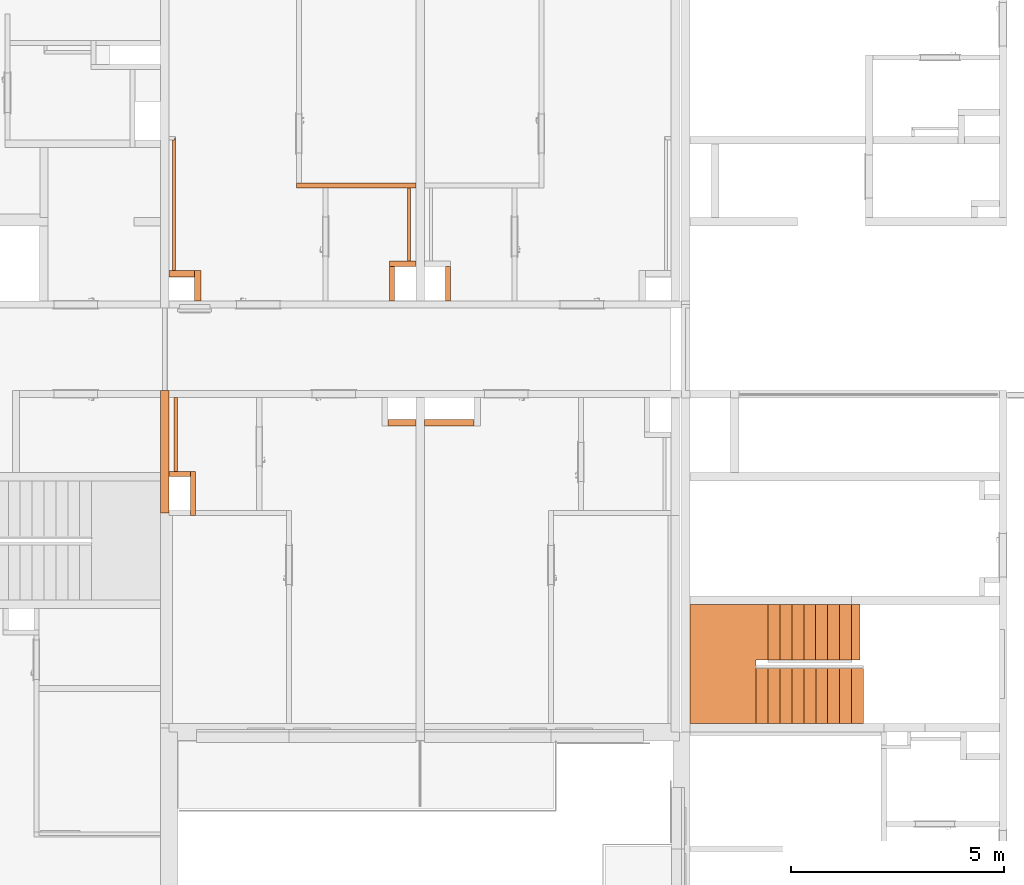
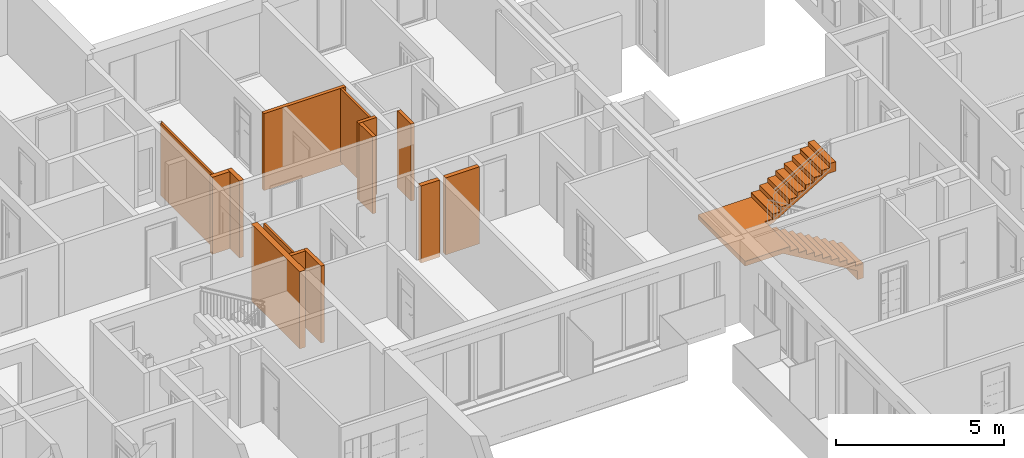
# One storey, part 60 of 66: 15 proxies.
"""IFC2X3 building model written with IfcOpenShell, lengths in millimetres."""

from ifc_helpers import new_model, entity, si_unit, converted_unit, derived_unit, money_unit, direction, frame, origin_with_axes, place, context, subcontext, project, spatial, faceted_brep, material, material_list, type_object, element, save


model = new_model("IFC2X3")

# Units and contexts
model_context = context("Model", 3, precision=0.01, world=origin_with_axes(), true_north=direction((0.34421633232, 0.938890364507)))
body_context = subcontext(model_context, "Body", "Model", "MODEL_VIEW")
ifc_project = project(units=[si_unit("LENGTHUNIT", "METRE", prefix="MILLI"), si_unit("AREAUNIT", "SQUARE_METRE"), si_unit("VOLUMEUNIT", "CUBIC_METRE"), converted_unit("PLANEANGLEUNIT", "DEGREE", entity("IfcPlaneAngleMeasure", 0.0174532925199), si_unit("PLANEANGLEUNIT", "RADIAN"), dimensions=[0, 0, 0, 0, 0, 0, 0]), si_unit("SOLIDANGLEUNIT", "STERADIAN"), money_unit("USD"), converted_unit("TIMEUNIT", "Year", entity("IfcTimeMeasure", 31556926.0), si_unit("TIMEUNIT", "SECOND"), dimensions=[0, 0, 1, 0, 0, 0, 0]), si_unit("MASSUNIT", "GRAM", prefix="KILO"), si_unit("THERMODYNAMICTEMPERATUREUNIT", "DEGREE_CELSIUS"), si_unit("LUMINOUSINTENSITYUNIT", "LUMEN"), si_unit("ENERGYUNIT", "JOULE", prefix="MEGA"), derived_unit("THERMALCONDUCTANCEUNIT", [(si_unit("POWERUNIT", "WATT"), 1), (si_unit("LENGTHUNIT", "METRE"), -1), (si_unit("THERMODYNAMICTEMPERATUREUNIT", "KELVIN"), -1)]), derived_unit("SPECIFICHEATCAPACITYUNIT", [(si_unit("ENERGYUNIT", "JOULE"), 1), (si_unit("MASSUNIT", "GRAM", prefix="KILO"), -1), (si_unit("THERMODYNAMICTEMPERATUREUNIT", "KELVIN"), -1)]), derived_unit("MASSDENSITYUNIT", [(si_unit("MASSUNIT", "GRAM", prefix="KILO"), 1), (si_unit("VOLUMEUNIT", "CUBIC_METRE"), -1)])], contexts=[model_context])

# Site, building, storey
site_placement = place(None, origin_with_axes())
site = spatial("IfcSite", under=ifc_project, at=site_placement, Name="USTRONIE MORSKIE", CompositionType="ELEMENT")
building_placement = place(site_placement, origin_with_axes())
building = spatial("IfcBuilding", under=site, at=building_placement, Name="Budynek", CompositionType="ELEMENT")
storey_placement = place(building_placement, frame((0.0, 0.0, 10000.0), z_axis=(0.0, 0.0, 1.0), x_axis=(1.0, 0.0, 0.0)))
storey = spatial("IfcBuildingStorey", under=building, at=storey_placement, Name="PIĘTRO 3", CompositionType="ELEMENT", Elevation=10000.0)

# Proxies
ifc_material_1 = material(Name="Bloczki silikatowe")
building_element_proxy_type_1 = type_object("IfcBuildingElementProxyType", Name="Bloczki silikatowe 120", PredefinedType="NOTDEFINED")
proxy_1_placement = place(storey_placement, frame((402917.920919, 737751.199937, -160.0), z_axis=(0.0, 0.0, 1.0), x_axis=(0.0, -1.0, 0.0)))
element("IfcBuildingElementProxy", 1, at=proxy_1_placement, inside=storey, type_object=building_element_proxy_type_1, material=ifc_material_1, Name="SW-04", context=body_context, shape_type="Brep", body=[
    faceted_brep([(820.00090117, 120.0, 0.0), (820.00090117, 0.0, 0.0), (0.0, 0.0, 0.0), (0.0, 120.0, 0.0), (820.00090117, 120.0, 2800.0), (820.00090117, 0.0, 2800.0), (0.0, 0.0, 2800.0), (0.0, 120.0, 2800.0)], [[[0, 1, 2, 3]], [[1, 0, 4, 5]], [[1, 5, 6, 2]], [[7, 3, 2, 6]], [[4, 0, 3, 7]], [[5, 4, 7, 6]]]),
])
proxy_2_placement = place(storey_placement, frame((399467.913786, 739651.199937, -160.0), z_axis=(0.0, 0.0, 1.0), x_axis=(1.0, 0.0, 0.0)))
element("IfcBuildingElementProxy", 2, at=proxy_2_placement, inside=storey, type_object=building_element_proxy_type_1, material=ifc_material_1, Name="SW-04", context=body_context, shape_type="Brep", body=[
    faceted_brep([(-60.0, -59.9999999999, 2800.0), (2750.00713284, -59.9999999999, 2800.0), (2750.00713284, 59.9999999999, 2800.0), (-60.0, 59.9999999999, 2800.0), (-60.0, -59.9999999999, 0.0), (2750.00713284, -59.9999999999, 0.0), (2750.00713284, 59.9999999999, 0.0), (-60.0, 59.9999999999, 0.0)], [[[0, 1, 2, 3]], [[4, 5, 1, 0]], [[5, 6, 2, 1]], [[3, 2, 6, 7]], [[3, 7, 4, 0]], [[7, 6, 5, 4]]]),
])
proxy_3_placement = place(storey_placement, frame((396317.920919, 732811.215201, -160.0), z_axis=(0.0, 0.0, 1.0), x_axis=(0.999999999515, -3.11484020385e-05, 0.0)))
element("IfcBuildingElementProxy", 3, at=proxy_3_placement, inside=storey, type_object=building_element_proxy_type_1, material=ifc_material_1, Name="SW-04", context=body_context, shape_type="Brep", body=[
    faceted_brep([(599.979556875, -1.13686837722e-10, 2800.0), (599.972081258, 120.0, 2800.0), (99.9962622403, 120.0, 2800.0), (100.000000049, -1.13686837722e-10, 2800.0), (599.979556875, -1.13686837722e-10, 0.0), (599.972081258, 120.0, 0.0), (99.9962622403, 120.0, 0.0), (100.000000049, -1.13686837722e-10, 0.0)], [[[0, 1, 2, 3]], [[1, 0, 4, 5]], [[1, 5, 6, 2]], [[7, 3, 2, 6]], [[4, 0, 3, 7]], [[5, 4, 7, 6]]]),
])
proxy_4_placement = place(storey_placement, frame((402317.920919, 737751.199937, -160.0), z_axis=(0.0, 0.0, 1.0), x_axis=(-1.0, 0.0, 0.0)))
element("IfcBuildingElementProxy", 4, at=proxy_4_placement, inside=storey, type_object=building_element_proxy_type_1, material=ifc_material_1, Name="SW-04", context=body_context, shape_type="Brep", body=[
    faceted_brep([(720.0, 0.0, 2800.0), (99.9999999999, 0.0, 2800.0), (99.9999999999, -120.0, 2800.0), (720.0, -120.0, 2800.0), (720.0, 0.0, 0.0), (99.9999999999, 0.0, 0.0), (99.9999999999, -120.0, 0.0), (720.0, -120.0, 0.0)], [[[0, 1, 2, 3]], [[4, 5, 1, 0]], [[5, 6, 2, 1]], [[3, 2, 6, 7]], [[7, 4, 0, 3]], [[7, 6, 5, 4]]]),
])
proxy_5_placement = place(storey_placement, frame((401717.920919, 737751.199937, -160.0), z_axis=(0.0, 0.0, 1.0), x_axis=(0.0, -1.0, 0.0)))
element("IfcBuildingElementProxy", 5, at=proxy_5_placement, inside=storey, type_object=building_element_proxy_type_1, material=ifc_material_1, Name="SW-04", context=body_context, shape_type="Brep", body=[
    faceted_brep([(820.00090117, -120.0, 2800.0), (820.00090117, 0.0, 2800.0), (0.0, 0.0, 2800.0), (0.0, -120.0, 2800.0), (820.00090117, -120.0, 0.0), (820.00090117, 0.0, 0.0), (0.0, 0.0, 0.0), (0.0, -120.0, 0.0)], [[[0, 1, 2, 3]], [[1, 0, 4, 5]], [[1, 5, 6, 2]], [[7, 3, 2, 6]], [[4, 0, 3, 7]], [[5, 4, 7, 6]]]),
])
proxy_6_placement = place(storey_placement, frame((396917.927263, 731951.199132, -160.0), z_axis=(0.0, 0.0, 1.0), x_axis=(-3.11484010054e-05, 0.999999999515, 0.0)))
element("IfcBuildingElementProxy", 6, at=proxy_6_placement, inside=storey, type_object=building_element_proxy_type_1, material=ifc_material_1, Name="SW-04", context=body_context, shape_type="Brep", body=[
    faceted_brep([(979.997380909, 0.0, 0.0), (979.989905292, -120.0, 0.0), (-60.0037378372, -120.0, 0.0), (-60.000000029, 0.0, 0.0), (979.997380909, 0.0, 2800.0), (979.989905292, -120.0, 2800.0), (-60.0037378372, -120.0, 2800.0), (-60.000000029, 0.0, 2800.0)], [[[0, 1, 2, 3]], [[1, 0, 4, 5]], [[1, 5, 6, 2]], [[7, 3, 2, 6]], [[4, 0, 3, 7]], [[5, 4, 7, 6]]]),
])
ifc_material_2 = material(Name="Beton konstrukcyjny B25")
ifc_material_3 = material(Name="Płytki podłogowe")
ifc_material_list_1 = material_list([ifc_material_2, ifc_material_2, ifc_material_2, ifc_material_3, ifc_material_3, ifc_material_3, ifc_material_3, ifc_material_3, ifc_material_3, ifc_material_3, ifc_material_3, ifc_material_3, ifc_material_3, ifc_material_3, ifc_material_3, ifc_material_3, ifc_material_3, ifc_material_3, ifc_material_3, ifc_material_3])
building_element_proxy_type_2 = type_object("IfcBuildingElementProxyType", Name="Typ schodów", PredefinedType="NOTDEFINED")
proxy_7_placement = place(storey_placement, frame((412739.618312, 727001.198914, 0.0), z_axis=(0.0, 0.0, 1.0), x_axis=(-1.0, 0.0, 0.0)))
element("IfcBuildingElementProxy", 7, at=proxy_7_placement, inside=storey, type_object=building_element_proxy_type_2, material=ifc_material_list_1, Name="SCH2", context=body_context, shape_type="Brep", body=[
    faceted_brep([(2520.00002021, -1299.99999404, 1485.0), (2520.00002021, 0.0, 1485.0), (2240.0, 0.0, 1485.0), (2240.0, -1300.0, 1485.0), (2520.00002021, -1299.99999404, 1491.66666667), (2520.00002021, 0.0, 1491.66666667), (2520.00002021, 0.0, 1345.35030449), (2426.66666667, 0.0, 1289.7947369), (2333.33333333, 0.0, 1234.23918135), (2240.0, 0.0, 1178.68362579), (2146.66666667, 0.0, 1123.12807024), (2053.33333333, 0.0, 1067.57251468), (1960.0, 0.0, 1012.01695913), (1866.66666667, 0.0, 956.46140357), (1773.33333333, 0.0, 900.905848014), (1680.0, 0.0, 845.350292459), (1586.66666667, 0.0, 789.794736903), (1493.33333333, 0.0, 734.239181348), (1400.0, 0.0, 678.683625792), (1306.66666667, 0.0, 623.128070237), (1213.33333333, 0.0, 567.572514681), (1120.0, 0.0, 512.016959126), (1026.66666667, 0.0, 456.46140357), (933.333333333, 0.0, 400.905848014), (840.0, 0.0, 345.350292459), (746.666666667, 0.0, 289.794736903), (653.333333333, 0.0, 234.239181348), (560.0, 0.0, 178.683625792), (466.666666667, 0.0, 123.128070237), (373.333333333, 0.0, 67.5725146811), (280.0, 0.0, 12.0169591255), (200.0, 0.0, -35.6020884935), (200.0, 0.0, -360.0), (0.0, 0.0, -360.0), (0.0, 0.0, -154.649707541), (0.0, 0.0, 151.666666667), (280.0, 0.0, 151.666666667), (280.0, 0.0, 318.333333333), (560.0, 0.0, 318.333333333), (560.0, 0.0, 485.0), (840.0, 0.0, 485.0), (840.0, 0.0, 651.666666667), (1120.0, 0.0, 651.666666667), (1120.0, 0.0, 818.333333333), (1400.0, 0.0, 818.333333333), (1400.0, 0.0, 985.0), (1680.0, 0.0, 985.0), (1680.0, 0.0, 1151.66666667), (1960.0, 0.0, 1151.66666667), (1960.0, 0.0, 1318.33333333), (2240.0, 0.0, 1318.33333333), (2765.81150867, 0.0, 1491.66666667), (2240.0, -1300.0, 1318.33333333), (1960.0, -1300.0, 1318.33333333), (1960.0, -1300.0, 1151.66666667), (1680.0, -1300.0, 1151.66666667), (1680.0, -1300.0, 985.0), (1400.0, -1300.0, 985.0), (1400.0, -1300.0, 818.333333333), (1120.0, -1300.0, 818.333333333), (1120.0, -1300.0, 651.666666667), (840.0, -1300.0, 651.666666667), (840.0, -1300.0, 485.0), (560.0, -1300.0, 485.0), (560.0, -1300.0, 318.333333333), (280.0, -1300.0, 318.333333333), (280.0, -1300.0, 151.666666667), (0.0, -1300.0, 151.666666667), (0.0, -1300.0, -154.649707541), (0.0, -1300.0, -360.0), (200.0, -1300.0, -360.0), (200.0, -1300.0, -35.6020884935), (280.0, -1300.0, 12.0169591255), (373.333333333, -1300.0, 67.5725146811), (466.666666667, -1300.0, 123.128070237), (560.0, -1300.0, 178.683625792), (653.333333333, -1300.0, 234.239181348), (746.666666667, -1300.0, 289.794736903), (840.0, -1300.0, 345.350292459), (933.333333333, -1300.0, 400.905848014), (1026.66666667, -1300.0, 456.46140357), (1120.0, -1300.0, 512.016959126), (1213.33333333, -1300.0, 567.572514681), (1306.66666667, -1300.0, 623.128070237), (1400.0, -1300.0, 678.683625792), (1493.33333333, -1300.0, 734.239181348), (1586.66666667, -1300.0, 789.794736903), (1680.0, -1300.0, 845.350292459), (1773.33333333, -1300.0, 900.905848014), (1866.66666667, -1300.0, 956.46140357), (1960.0, -1300.0, 1012.01695913), (2053.33333333, -1300.0, 1067.57251468), (2146.66666667, -1300.0, 1123.12807024), (2240.0, -1300.0, 1178.68362579), (2333.33333333, -1300.0, 1234.23918135), (2426.66666667, -1300.0, 1289.7947369), (2520.00002021, -1299.99999404, 1345.35030449), (2765.81150867, -1299.99999404, 1491.66666667)], [[[0, 1, 2, 3]], [[1, 0, 4, 5]], [[6, 7, 8, 9, 10, 11, 12, 13, 14, 15, 16, 17, 18, 19, 20, 21, 22, 23, 24, 25, 26, 27, 28, 29, 30, 31, 32, 33, 34, 35, 36, 37, 38, 39, 40, 41, 42, 43, 44, 45, 46, 47, 48, 49, 50, 2, 1, 5, 51]], [[52, 3, 2, 50]], [[0, 3, 52, 53, 54, 55, 56, 57, 58, 59, 60, 61, 62, 63, 64, 65, 66, 67, 68, 69, 70, 71, 72, 73, 74, 75, 76, 77, 78, 79, 80, 81, 82, 83, 84, 85, 86, 87, 88, 89, 90, 91, 92, 93, 94, 95, 96, 97, 4]], [[51, 5, 4, 97]], [[96, 95, 7, 6, 51, 97]], [[95, 94, 8, 7]], [[94, 93, 9, 8]], [[93, 92, 10, 9]], [[92, 91, 11, 10]], [[91, 90, 12, 11]], [[90, 89, 13, 12]], [[89, 88, 14, 13]], [[88, 87, 15, 14]], [[87, 86, 16, 15]], [[86, 85, 17, 16]], [[85, 84, 18, 17]], [[84, 83, 19, 18]], [[83, 82, 20, 19]], [[82, 81, 21, 20]], [[81, 80, 22, 21]], [[80, 79, 23, 22]], [[79, 78, 24, 23]], [[78, 77, 25, 24]], [[77, 76, 26, 25]], [[76, 75, 27, 26]], [[75, 74, 28, 27]], [[74, 73, 29, 28]], [[73, 72, 30, 29]], [[72, 71, 31, 30]], [[32, 31, 71, 70]], [[32, 70, 69, 33]], [[69, 68, 34, 33]], [[35, 34, 68, 67]], [[36, 35, 67, 66]], [[66, 65, 37, 36]], [[38, 37, 65, 64]], [[64, 63, 39, 38]], [[40, 39, 63, 62]], [[62, 61, 41, 40]], [[42, 41, 61, 60]], [[60, 59, 43, 42]], [[44, 43, 59, 58]], [[58, 57, 45, 44]], [[46, 45, 57, 56]], [[56, 55, 47, 46]], [[48, 47, 55, 54]], [[54, 53, 49, 48]], [[50, 49, 53, 52]]]),
    faceted_brep([(2275.92762177, -1500.00000596, 1491.66666667), (2275.92762177, -1500.00000596, 1651.66666667), (2521.73913043, -1500.00000596, 1651.66666667), (2521.73913043, -1500.00000596, 1491.66666667), (2275.92762177, -2800.0, 1651.66666667), (2275.92762177, -2800.0, 1491.66666667), (4071.73911851, -2800.0, 1651.66666667), (4071.73911851, 0.0, 1651.66666667), (2520.00002021, 0.0, 1651.66666667), (2520.00002021, -1299.99999404, 1651.66666667), (2521.73913043, -1299.99999404, 1651.66666667), (2521.73913043, -1299.99999404, 1491.66666667), (2520.00002021, -1299.99999404, 1491.66666667), (2520.00002021, 0.0, 1491.66666667), (4071.73911851, 0.0, 1491.66666667), (4071.73911851, -2800.0, 1491.66666667)], [[[0, 1, 2, 3]], [[4, 1, 0, 5]], [[1, 4, 6, 7, 8, 9, 10, 2]], [[10, 11, 3, 2]], [[5, 0, 3, 11, 12, 13, 14, 15]], [[4, 5, 15, 6]], [[6, 15, 14, 7]], [[7, 14, 13, 8]], [[8, 13, 12, 9]], [[9, 12, 11, 10]]]),
    faceted_brep([(375.072463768, -2800.0, 2623.12807024), (346.727621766, -2800.0, 2640.0), (346.727621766, -1500.0, 2640.0), (375.072463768, -1500.0, 2623.12807024), (81.7391304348, -2800.0, 2640.0), (468.405797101, -2800.0, 2567.57251468), (561.739130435, -2800.0, 2512.01695913), (655.072463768, -2800.0, 2456.46140357), (748.405797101, -2800.0, 2400.90584801), (841.739130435, -2800.0, 2345.35029246), (935.072463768, -2800.0, 2289.7947369), (1028.4057971, -2800.0, 2234.23918135), (1121.73913043, -2800.0, 2178.68362579), (1215.07246377, -2800.0, 2123.12807024), (1308.4057971, -2800.0, 2067.57251468), (1401.73913043, -2800.0, 2012.01695913), (1495.07246377, -2800.0, 1956.46140357), (1588.4057971, -2800.0, 1900.90584801), (1681.73913043, -2800.0, 1845.35029246), (1775.07246377, -2800.0, 1789.7947369), (1868.4057971, -2800.0, 1734.23918135), (1961.73913043, -2800.0, 1678.68362579), (2055.07246377, -2800.0, 1623.12807024), (2148.4057971, -2800.0, 1567.57251468), (2241.73913043, -2800.0, 1512.01695913), (2275.92762177, -2800.0, 1491.66666667), (2275.92762177, -2800.0, 1651.66666667), (2241.73913043, -2800.0, 1651.66666667), (2241.73913043, -2800.0, 1818.33333333), (1961.73913043, -2800.0, 1818.33333333), (1961.73913043, -2800.0, 1985.0), (1681.73913043, -2800.0, 1985.0), (1681.73913043, -2800.0, 2151.66666667), (1401.73913043, -2800.0, 2151.66666667), (1401.73913043, -2800.0, 2318.33333333), (1121.73913043, -2800.0, 2318.33333333), (1121.73913043, -2800.0, 2485.0), (841.739130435, -2800.0, 2485.0), (841.739130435, -2800.0, 2651.66666667), (561.739130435, -2800.0, 2651.66666667), (561.739130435, -2800.0, 2818.33333333), (281.739130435, -2800.0, 2818.33333333), (281.739130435, -2800.0, 2985.0), (81.7391304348, -2800.0, 2985.0), (81.7391304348, -1500.0, 2640.0), (81.7391304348, -1500.0, 2985.0), (281.739130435, -1500.0, 2985.0), (281.739130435, -1500.0, 2818.33333333), (561.739130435, -1500.0, 2818.33333333), (561.739130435, -1500.0, 2651.66666667), (841.739130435, -1500.0, 2651.66666667), (841.739130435, -1500.0, 2485.0), (1121.73913043, -1500.0, 2485.0), (1121.73913043, -1500.0, 2318.33333333), (1401.73913043, -1500.0, 2318.33333333), (1401.73913043, -1500.0, 2151.66666667), (1681.73913043, -1500.0, 2151.66666667), (1681.73913043, -1500.0, 1985.0), (1961.73913043, -1500.0, 1985.0), (1961.73913043, -1500.0, 1818.33333333), (2241.73913043, -1500.0, 1818.33333333), (2241.73913043, -1500.00000596, 1651.66666667), (2275.92762177, -1500.00000596, 1651.66666667), (2275.92762177, -1500.00000596, 1491.66666667), (2241.73913043, -1500.00000596, 1512.01695913), (2148.4057971, -1500.0, 1567.57251468), (2055.07246377, -1500.0, 1623.12807024), (1961.73913043, -1500.0, 1678.68362579), (1868.4057971, -1500.0, 1734.23918135), (1775.07246377, -1500.0, 1789.7947369), (1681.73913043, -1500.0, 1845.35029246), (1588.4057971, -1500.0, 1900.90584801), (1495.07246377, -1500.0, 1956.46140357), (1401.73913043, -1500.0, 2012.01695913), (1308.4057971, -1500.0, 2067.57251468), (1215.07246377, -1500.0, 2123.12807024), (1121.73913043, -1500.0, 2178.68362579), (1028.4057971, -1500.0, 2234.23918135), (935.072463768, -1500.0, 2289.7947369), (841.739130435, -1500.0, 2345.35029246), (748.405797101, -1500.0, 2400.90584801), (655.072463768, -1500.0, 2456.46140357), (561.739130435, -1500.0, 2512.01695913), (468.405797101, -1500.0, 2567.57251468)], [[[0, 1, 2, 3]], [[4, 1, 0, 5, 6, 7, 8, 9, 10, 11, 12, 13, 14, 15, 16, 17, 18, 19, 20, 21, 22, 23, 24, 25, 26, 27, 28, 29, 30, 31, 32, 33, 34, 35, 36, 37, 38, 39, 40, 41, 42, 43]], [[44, 2, 1, 4]], [[3, 2, 44, 45, 46, 47, 48, 49, 50, 51, 52, 53, 54, 55, 56, 57, 58, 59, 60, 61, 62, 63, 64, 65, 66, 67, 68, 69, 70, 71, 72, 73, 74, 75, 76, 77, 78, 79, 80, 81, 82, 83]], [[83, 5, 0, 3]], [[82, 6, 5, 83]], [[81, 7, 6, 82]], [[80, 8, 7, 81]], [[79, 9, 8, 80]], [[78, 10, 9, 79]], [[77, 11, 10, 78]], [[76, 12, 11, 77]], [[75, 13, 12, 76]], [[74, 14, 13, 75]], [[73, 15, 14, 74]], [[72, 16, 15, 73]], [[71, 17, 16, 72]], [[70, 18, 17, 71]], [[69, 19, 18, 70]], [[68, 20, 19, 69]], [[67, 21, 20, 68]], [[66, 22, 21, 67]], [[65, 23, 22, 66]], [[23, 65, 64, 24]], [[63, 25, 24, 64]], [[26, 25, 63, 62]], [[26, 62, 61, 27]], [[60, 28, 27, 61]], [[59, 29, 28, 60]], [[29, 59, 58, 30]], [[57, 31, 30, 58]], [[31, 57, 56, 32]], [[55, 33, 32, 56]], [[33, 55, 54, 34]], [[53, 35, 34, 54]], [[35, 53, 52, 36]], [[51, 37, 36, 52]], [[37, 51, 50, 38]], [[49, 39, 38, 50]], [[39, 49, 48, 40]], [[48, 47, 41, 40]], [[42, 41, 47, 46]], [[42, 46, 45, 43]], [[4, 43, 45, 44]]]),
    faceted_brep([(0.0, 0.0, 156.666666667), (0.0, -1300.0, 156.666666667), (0.0, -1300.0, 166.666666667), (0.0, 0.0, 166.666666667), (280.0, 0.0, 156.666666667), (280.0, -1300.0, 156.666666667), (280.0, -1300.0, 166.666666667), (280.0, 0.0, 166.666666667)], [[[0, 1, 2, 3]], [[0, 4, 5, 1]], [[1, 5, 6, 2]], [[3, 2, 6, 7]], [[4, 0, 3, 7]], [[5, 4, 7, 6]]]),
    faceted_brep([(280.0, 0.0, 323.333333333), (280.0, -1300.0, 323.333333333), (280.0, -1300.0, 333.333333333), (280.0, 0.0, 333.333333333), (560.0, 0.0, 323.333333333), (560.0, -1300.0, 323.333333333), (560.0, -1300.0, 333.333333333), (560.0, 0.0, 333.333333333)], [[[0, 1, 2, 3]], [[0, 4, 5, 1]], [[1, 5, 6, 2]], [[3, 2, 6, 7]], [[4, 0, 3, 7]], [[5, 4, 7, 6]]]),
    faceted_brep([(560.0, 0.0, 490.0), (560.0, -1300.0, 490.0), (560.0, -1300.0, 500.0), (560.0, 0.0, 500.0), (840.0, 0.0, 490.0), (840.0, -1300.0, 490.0), (840.0, -1300.0, 500.0), (840.0, 0.0, 500.0)], [[[0, 1, 2, 3]], [[0, 4, 5, 1]], [[1, 5, 6, 2]], [[3, 2, 6, 7]], [[4, 0, 3, 7]], [[5, 4, 7, 6]]]),
    faceted_brep([(840.0, 0.0, 656.666666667), (840.0, -1300.0, 656.666666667), (840.0, -1300.0, 666.666666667), (840.0, 0.0, 666.666666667), (1120.0, 0.0, 656.666666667), (1120.0, -1300.0, 656.666666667), (1120.0, -1300.0, 666.666666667), (1120.0, 0.0, 666.666666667)], [[[0, 1, 2, 3]], [[0, 4, 5, 1]], [[1, 5, 6, 2]], [[3, 2, 6, 7]], [[4, 0, 3, 7]], [[5, 4, 7, 6]]]),
    faceted_brep([(1120.0, 0.0, 823.333333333), (1120.0, -1300.0, 823.333333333), (1120.0, -1300.0, 833.333333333), (1120.0, 0.0, 833.333333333), (1400.0, 0.0, 823.333333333), (1400.0, -1300.0, 823.333333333), (1400.0, -1300.0, 833.333333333), (1400.0, 0.0, 833.333333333)], [[[0, 1, 2, 3]], [[0, 4, 5, 1]], [[1, 5, 6, 2]], [[3, 2, 6, 7]], [[4, 0, 3, 7]], [[5, 4, 7, 6]]]),
    faceted_brep([(1400.0, 0.0, 990.0), (1400.0, -1300.0, 990.0), (1400.0, -1300.0, 1000.0), (1400.0, 0.0, 1000.0), (1680.0, 0.0, 990.0), (1680.0, -1300.0, 990.0), (1680.0, -1300.0, 1000.0), (1680.0, 0.0, 1000.0)], [[[0, 1, 2, 3]], [[0, 4, 5, 1]], [[1, 5, 6, 2]], [[3, 2, 6, 7]], [[4, 0, 3, 7]], [[5, 4, 7, 6]]]),
    faceted_brep([(1680.0, 0.0, 1156.66666667), (1680.0, -1300.0, 1156.66666667), (1680.0, -1300.0, 1166.66666667), (1680.0, 0.0, 1166.66666667), (1960.0, 0.0, 1156.66666667), (1960.0, -1300.0, 1156.66666667), (1960.0, -1300.0, 1166.66666667), (1960.0, 0.0, 1166.66666667)], [[[0, 1, 2, 3]], [[0, 4, 5, 1]], [[1, 5, 6, 2]], [[3, 2, 6, 7]], [[4, 0, 3, 7]], [[5, 4, 7, 6]]]),
    faceted_brep([(1960.0, 0.0, 1323.33333333), (1960.0, -1300.0, 1323.33333333), (1960.0, -1300.0, 1333.33333333), (1960.0, 0.0, 1333.33333333), (2240.0, 0.0, 1323.33333333), (2240.0, -1300.0, 1323.33333333), (2240.0, -1300.0, 1333.33333333), (2240.0, 0.0, 1333.33333333)], [[[0, 1, 2, 3]], [[0, 4, 5, 1]], [[1, 5, 6, 2]], [[3, 2, 6, 7]], [[4, 0, 3, 7]], [[5, 4, 7, 6]]]),
    faceted_brep([(2240.0, 0.0, 1490.0), (2240.0, -1300.0, 1490.0), (2240.0, -1300.0, 1500.0), (2240.0, 0.0, 1500.0), (2520.0, 0.0, 1490.0), (2520.0, -1300.0, 1490.0), (2520.0, -1300.0, 1500.0), (2520.0, 0.0, 1500.0)], [[[0, 1, 2, 3]], [[0, 4, 5, 1]], [[1, 5, 6, 2]], [[3, 2, 6, 7]], [[4, 0, 3, 7]], [[5, 4, 7, 6]]]),
    faceted_brep([(2521.73913043, -1500.00000596, 1656.66666667), (2241.73913043, -1500.00000596, 1656.66666667), (2241.73913043, -1500.00000596, 1666.66666667), (2521.73913043, -1500.00000596, 1666.66666667), (2521.73913043, -1299.99999404, 1656.66666667), (2520.00002021, -1299.99999404, 1656.66666667), (2520.00002021, 0.0, 1656.66666667), (2521.73913043, 0.0, 1656.66666667), (4071.73911851, 0.0, 1656.66666667), (4071.73911851, -2800.0, 1656.66666667), (2521.73913043, -2800.0, 1656.66666667), (2241.73913043, -2800.0, 1656.66666667), (2241.73913043, -2800.0, 1666.66666667), (2521.73913043, -2800.0, 1666.66666667), (4071.73911851, -2800.0, 1666.66666667), (4071.73911851, 0.0, 1666.66666667), (2521.73913043, 0.0, 1666.66666667), (2520.00002021, 0.0, 1666.66666667), (2520.00002021, -1299.99999404, 1666.66666667), (2521.73913043, -1299.99999404, 1666.66666667)], [[[0, 1, 2, 3]], [[0, 4, 5, 6, 7, 8, 9, 10, 11, 1]], [[1, 11, 12, 2]], [[3, 2, 12, 13, 14, 15, 16, 17, 18, 19]], [[4, 0, 3, 19]], [[5, 4, 19, 18]], [[6, 5, 18, 17]], [[7, 6, 17, 16]], [[8, 7, 16, 15]], [[9, 8, 15, 14]], [[10, 9, 14, 13]], [[11, 10, 13, 12]]]),
    faceted_brep([(2241.73913043, -2800.0, 1823.33333333), (2241.73913043, -1500.0, 1823.33333333), (2241.73913043, -1500.0, 1833.33333333), (2241.73913043, -2800.0, 1833.33333333), (1961.73913043, -2800.0, 1823.33333333), (1961.73913043, -1500.0, 1823.33333333), (1961.73913043, -1500.0, 1833.33333333), (1961.73913043, -2800.0, 1833.33333333)], [[[0, 1, 2, 3]], [[0, 4, 5, 1]], [[1, 5, 6, 2]], [[3, 2, 6, 7]], [[4, 0, 3, 7]], [[5, 4, 7, 6]]]),
    faceted_brep([(1961.73913043, -2800.0, 1990.0), (1961.73913043, -1500.0, 1990.0), (1961.73913043, -1500.0, 2000.0), (1961.73913043, -2800.0, 2000.0), (1681.73913043, -2800.0, 1990.0), (1681.73913043, -1500.0, 1990.0), (1681.73913043, -1500.0, 2000.0), (1681.73913043, -2800.0, 2000.0)], [[[0, 1, 2, 3]], [[0, 4, 5, 1]], [[1, 5, 6, 2]], [[3, 2, 6, 7]], [[4, 0, 3, 7]], [[5, 4, 7, 6]]]),
    faceted_brep([(1681.73913043, -2800.0, 2156.66666667), (1681.73913043, -1500.0, 2156.66666667), (1681.73913043, -1500.0, 2166.66666667), (1681.73913043, -2800.0, 2166.66666667), (1401.73913043, -2800.0, 2156.66666667), (1401.73913043, -1500.0, 2156.66666667), (1401.73913043, -1500.0, 2166.66666667), (1401.73913043, -2800.0, 2166.66666667)], [[[0, 1, 2, 3]], [[0, 4, 5, 1]], [[1, 5, 6, 2]], [[3, 2, 6, 7]], [[4, 0, 3, 7]], [[5, 4, 7, 6]]]),
    faceted_brep([(1401.73913043, -2800.0, 2323.33333333), (1401.73913043, -1500.0, 2323.33333333), (1401.73913043, -1500.0, 2333.33333333), (1401.73913043, -2800.0, 2333.33333333), (1121.73913043, -2800.0, 2323.33333333), (1121.73913043, -1500.0, 2323.33333333), (1121.73913043, -1500.0, 2333.33333333), (1121.73913043, -2800.0, 2333.33333333)], [[[0, 1, 2, 3]], [[0, 4, 5, 1]], [[1, 5, 6, 2]], [[3, 2, 6, 7]], [[4, 0, 3, 7]], [[5, 4, 7, 6]]]),
    faceted_brep([(1121.73913043, -2800.0, 2490.0), (1121.73913043, -1500.0, 2490.0), (1121.73913043, -1500.0, 2500.0), (1121.73913043, -2800.0, 2500.0), (841.739130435, -2800.0, 2490.0), (841.739130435, -1500.0, 2490.0), (841.739130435, -1500.0, 2500.0), (841.739130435, -2800.0, 2500.0)], [[[0, 1, 2, 3]], [[0, 4, 5, 1]], [[1, 5, 6, 2]], [[3, 2, 6, 7]], [[4, 0, 3, 7]], [[5, 4, 7, 6]]]),
    faceted_brep([(841.739130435, -2800.0, 2656.66666667), (841.739130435, -1500.0, 2656.66666667), (841.739130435, -1500.0, 2666.66666667), (841.739130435, -2800.0, 2666.66666667), (561.739130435, -2800.0, 2656.66666667), (561.739130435, -1500.0, 2656.66666667), (561.739130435, -1500.0, 2666.66666667), (561.739130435, -2800.0, 2666.66666667)], [[[0, 1, 2, 3]], [[0, 4, 5, 1]], [[1, 5, 6, 2]], [[3, 2, 6, 7]], [[4, 0, 3, 7]], [[5, 4, 7, 6]]]),
    faceted_brep([(561.739130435, -2800.0, 2823.33333333), (561.739130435, -1500.0, 2823.33333333), (561.739130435, -1500.0, 2833.33333333), (561.739130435, -2800.0, 2833.33333333), (281.739130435, -2800.0, 2823.33333333), (281.739130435, -1500.0, 2823.33333333), (281.739130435, -1500.0, 2833.33333333), (281.739130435, -2800.0, 2833.33333333)], [[[0, 1, 2, 3]], [[0, 4, 5, 1]], [[1, 5, 6, 2]], [[3, 2, 6, 7]], [[4, 0, 3, 7]], [[5, 4, 7, 6]]]),
])
ifc_material_4 = material(Name="-Pustka powietrzna")
ifc_material_5 = material(Name="Płyta GK")
ifc_material_list_2 = material_list([ifc_material_4, ifc_material_5, ifc_material_5])
building_element_proxy_type_3 = type_object("IfcBuildingElementProxyType", Name="330-SD GK 2-warstwy 75", PredefinedType="NOTDEFINED")
proxy_8_placement = place(storey_placement, frame((396547.898799, 737501.202288, -180.0), z_axis=(0.0, 0.0, 1.0), x_axis=(0.0, 1.0, 0.0)))
element("IfcBuildingElementProxy", 8, at=proxy_8_placement, inside=storey, type_object=building_element_proxy_type_3, material=ifc_material_list_2, Name="Ściana-009", context=body_context, shape_type="Brep", body=[
    faceted_brep([(150.0, 0.0, 180.0), (3220.00000001, 0.0, 180.0), (3220.00000001, 0.0, 2820.0), (150.0, 0.0, 2820.0), (3220.00000001, 50.0, 180.0), (150.0, 50.0, 180.0), (3220.00000001, 50.0, 2820.0), (150.0, 50.0, 2820.0)], [[[0, 1, 2, 3]], [[4, 1, 0, 5]], [[1, 4, 6, 2]], [[6, 7, 3, 2]], [[5, 0, 3, 7]], [[4, 5, 7, 6]]]),
    faceted_brep([(150.0, -12.5, 165.0), (3270.00000001, -12.5, 165.0), (3270.00000001, -12.5, 2820.0), (150.0, -12.5, 2820.0), (3270.00000001, 0.0, 165.0), (150.0, 0.0, 165.0), (3270.00000001, 0.0, 2820.0), (150.0, 0.0, 2820.0)], [[[0, 1, 2, 3]], [[4, 1, 0, 5]], [[1, 4, 6, 2]], [[6, 7, 3, 2]], [[5, 0, 3, 7]], [[4, 5, 7, 6]]]),
    faceted_brep([(150.0, -25.0, 165.0), (3282.50000001, -25.0, 165.0), (3282.50000001, -25.0, 2820.0), (150.0, -25.0, 2820.0), (3282.50000001, -12.5, 165.0), (150.0, -12.5, 165.0), (3282.50000001, -12.5, 2820.0), (150.0, -12.5, 2820.0)], [[[0, 1, 2, 3]], [[4, 1, 0, 5]], [[1, 4, 6, 2]], [[6, 7, 3, 2]], [[5, 0, 3, 7]], [[4, 5, 7, 6]]]),
])
proxy_9_placement = place(storey_placement, frame((402072.933272, 739651.199937, -180.0), z_axis=(0.0, 0.0, 1.0), x_axis=(0.0, -1.0, 0.0)))
element("IfcBuildingElementProxy", 9, at=proxy_9_placement, inside=storey, type_object=building_element_proxy_type_3, material=ifc_material_list_2, Name="Ściana-009", context=body_context, shape_type="Brep", body=[
    faceted_brep([(1780.0, 25.0, 180.0), (59.9999999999, 25.0, 180.0), (59.9999999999, 25.0, 2820.0), (1780.0, 25.0, 2820.0), (59.9999999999, -25.0, 180.0), (1780.0, -25.0, 180.0), (59.9999999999, -25.0, 2820.0), (1780.0, -25.0, 2820.0)], [[[0, 1, 2, 3]], [[4, 1, 0, 5]], [[1, 4, 6, 2]], [[6, 7, 3, 2]], [[5, 0, 3, 7]], [[4, 5, 7, 6]]]),
    faceted_brep([(1780.0, -25.0, 165.0), (59.9999999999, -25.0, 165.0), (59.9999999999, -25.0, 2820.0), (1780.0, -25.0, 2820.0), (59.9999999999, -37.5, 165.0), (1780.0, -37.5, 165.0), (59.9999999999, -37.5, 2820.0), (1780.0, -37.5, 2820.0)], [[[0, 1, 2, 3]], [[4, 1, 0, 5]], [[1, 4, 6, 2]], [[6, 7, 3, 2]], [[5, 0, 3, 7]], [[4, 5, 7, 6]]]),
    faceted_brep([(1780.0, -37.5, 165.0), (59.9999999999, -37.5, 165.0), (59.9999999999, -37.5, 2820.0), (1780.0, -37.5, 2820.0), (59.9999999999, -50.0, 165.0), (1780.0, -50.0, 165.0), (59.9999999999, -50.0, 2820.0), (1780.0, -50.0, 2820.0)], [[[0, 1, 2, 3]], [[4, 1, 0, 5]], [[1, 4, 6, 2]], [[6, 7, 3, 2]], [[5, 0, 3, 7]], [[4, 5, 7, 6]]]),
])
proxy_10_placement = place(storey_placement, frame((396562.908566, 732811.206636, -160.0), z_axis=(0.0, 0.0, 1.0), x_axis=(0.0, 1.0, 0.0)))
element("IfcBuildingElementProxy", 10, at=proxy_10_placement, inside=storey, type_object=building_element_proxy_type_3, material=ifc_material_list_2, Name="Ściana-009", context=body_context, shape_type="Brep", body=[
    faceted_brep([(120.0001558, -25.0, 160.0), (1859.99610152, -25.0, 160.0), (1859.99610152, -25.0, 2800.0), (120.0001558, -25.0, 2800.0), (1859.99611702, 25.0, 160.0), (120.00171322, 25.0, 160.0), (1859.99611702, 25.0, 2800.0), (120.00171322, 25.0, 2800.0)], [[[0, 1, 2, 3]], [[4, 1, 0, 5]], [[1, 4, 6, 2]], [[2, 6, 7, 3]], [[5, 0, 3, 7]], [[4, 5, 7, 6]]]),
    faceted_brep([(119.999766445, -37.5, 145.0), (1859.99609764, -37.5, 145.0), (1859.99609764, -37.5, 2800.0), (119.999766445, -37.5, 2800.0), (1859.99610152, -25.0, 145.0), (120.0001558, -25.0, 145.0), (1859.99610152, -25.0, 2800.0), (120.0001558, -25.0, 2800.0)], [[[0, 1, 2, 3]], [[4, 1, 0, 5]], [[1, 4, 6, 2]], [[2, 6, 7, 3]], [[5, 0, 3, 7]], [[4, 5, 7, 6]]]),
    faceted_brep([(119.99937709, -50.0, 145.0), (1859.99609377, -50.0, 145.0), (1859.99609377, -50.0, 2800.0), (119.99937709, -50.0, 2800.0), (1859.99609764, -37.5, 145.0), (119.999766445, -37.5, 145.0), (1859.99609764, -37.5, 2800.0), (119.999766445, -37.5, 2800.0)], [[[0, 1, 2, 3]], [[4, 1, 0, 5]], [[1, 4, 6, 2]], [[2, 6, 7, 3]], [[5, 0, 3, 7]], [[4, 5, 7, 6]]]),
])
building_element_proxy_type_4 = type_object("IfcBuildingElementProxyType", Name="Bloczki silikatowe 150", PredefinedType="NOTDEFINED")
proxy_11_placement = place(storey_placement, frame((397017.924131, 736851.199036, -160.0), z_axis=(0.0, 0.0, 1.0), x_axis=(-3.11484011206e-05, 0.999999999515, 0.0)))
element("IfcBuildingElementProxy", 11, at=proxy_11_placement, inside=storey, type_object=building_element_proxy_type_4, material=ifc_material_1, Name="SW-03", context=body_context, shape_type="Brep", body=[
    faceted_brep([(800.003252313, 0.0, 0.0), (799.998580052, -150.0, 0.0), (79.9953277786, -150.0, 0.0), (80.0000000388, 0.0, 0.0), (800.003252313, 0.0, 2800.0), (799.998580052, -150.0, 2800.0), (79.9953277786, -150.0, 2800.0), (80.0000000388, 0.0, 2800.0)], [[[0, 1, 2, 3]], [[1, 0, 4, 5]], [[1, 5, 6, 2]], [[7, 3, 2, 6]], [[4, 0, 3, 7]], [[5, 4, 7, 6]]]),
])
proxy_12_placement = place(storey_placement, frame((401567.920919, 734151.201884, -160.0), z_axis=(0.0, 0.0, 1.0), x_axis=(1.0, 0.0, 0.0)))
element("IfcBuildingElementProxy", 12, at=proxy_12_placement, inside=storey, type_object=building_element_proxy_type_4, material=ifc_material_1, Name="SW-03", context=body_context, shape_type="Brep", body=[
    faceted_brep([(650.0, 0.0, 0.0), (650.0, -150.0, 0.0), (0.0, -150.0, 0.0), (0.0, 0.0, 0.0), (650.0, 0.0, 2800.0), (650.0, -150.0, 2800.0), (0.0, -150.0, 2800.0), (0.0, 0.0, 2800.0)], [[[0, 1, 2, 3]], [[1, 0, 4, 5]], [[1, 5, 6, 2]], [[7, 3, 2, 6]], [[4, 0, 3, 7]], [[5, 4, 7, 6]]]),
])
proxy_13_placement = place(storey_placement, frame((397017.903884, 737501.202288, -160.0), z_axis=(0.0, 0.0, 1.0), x_axis=(-1.0, 0.0, 0.0)))
element("IfcBuildingElementProxy", 13, at=proxy_13_placement, inside=storey, type_object=building_element_proxy_type_4, material=ifc_material_1, Name="SW-03", context=body_context, shape_type="Brep", body=[
    faceted_brep([(599.991772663, 0.0, 0.0), (599.991589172, -150.0, 0.0), (0.00467226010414, -150.0, 0.0), (0.0, 0.0, 0.0), (599.991772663, 0.0, 2800.0), (599.991589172, -150.0, 2800.0), (0.00467226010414, -150.0, 2800.0), (0.0, 0.0, 2800.0)], [[[0, 1, 2, 3]], [[1, 0, 4, 5]], [[1, 5, 6, 2]], [[7, 3, 2, 6]], [[4, 0, 3, 7]], [[5, 4, 7, 6]]]),
])
proxy_14_placement = place(storey_placement, frame((403587.872717, 734151.201884, -160.0), z_axis=(0.0, 0.0, 1.0), x_axis=(-1.0, 0.0, 0.0)))
element("IfcBuildingElementProxy", 14, at=proxy_14_placement, inside=storey, type_object=building_element_proxy_type_4, material=ifc_material_1, Name="SW-03", context=body_context, shape_type="Brep", body=[
    faceted_brep([(0.0, 0.0, 0.0), (1169.9517982, 0.0, 0.0), (1169.9517982, 0.0, 2800.0), (0.0, 0.0, 2800.0), (0.0, 150.0, 0.0), (1169.9517982, 150.0, 0.0), (1169.9517982, 150.0, 2800.0), (0.0, 150.0, 2800.0)], [[[0, 1, 2, 3]], [[4, 5, 1, 0]], [[5, 6, 2, 1]], [[3, 2, 6, 7]], [[0, 3, 7, 4]], [[7, 6, 5, 4]]]),
])
building_element_proxy_type_5 = type_object("IfcBuildingElementProxyType", Name="Beton konstrukcyjny B25 200", PredefinedType="NOTDEFINED")
proxy_15_placement = place(storey_placement, frame((396317.920919, 731951.199132, -160.0), z_axis=(0.0, 0.0, 1.0), x_axis=(0.0, 1.0, 0.0)))
element("IfcBuildingElementProxy", 15, at=proxy_15_placement, inside=storey, type_object=building_element_proxy_type_5, material=ifc_material_2, Name="SW-01", context=body_context, shape_type="Brep", body=[
    faceted_brep([(2880.00371943, 100.0, 2800.0), (2800.00368844, 100.0, 2800.0), (2800.00368844, -100.0, 2800.0), (2880.00365744, -100.0, 2800.0), (0.0, 100.0, 0.0), (0.0, 100.0, 2800.0), (2880.00371943, 100.0, 0.0), (0.0, -100.0, 2800.0), (0.0, -100.0, 0.0), (2880.00365744, -100.0, 0.0)], [[[0, 1, 2, 3]], [[4, 5, 1, 0, 6]], [[5, 7, 2, 1]], [[3, 2, 7, 8, 9]], [[3, 9, 6, 0]], [[8, 7, 5, 4]], [[9, 8, 4, 6]]]),
])

save(model, "model.ifc")
